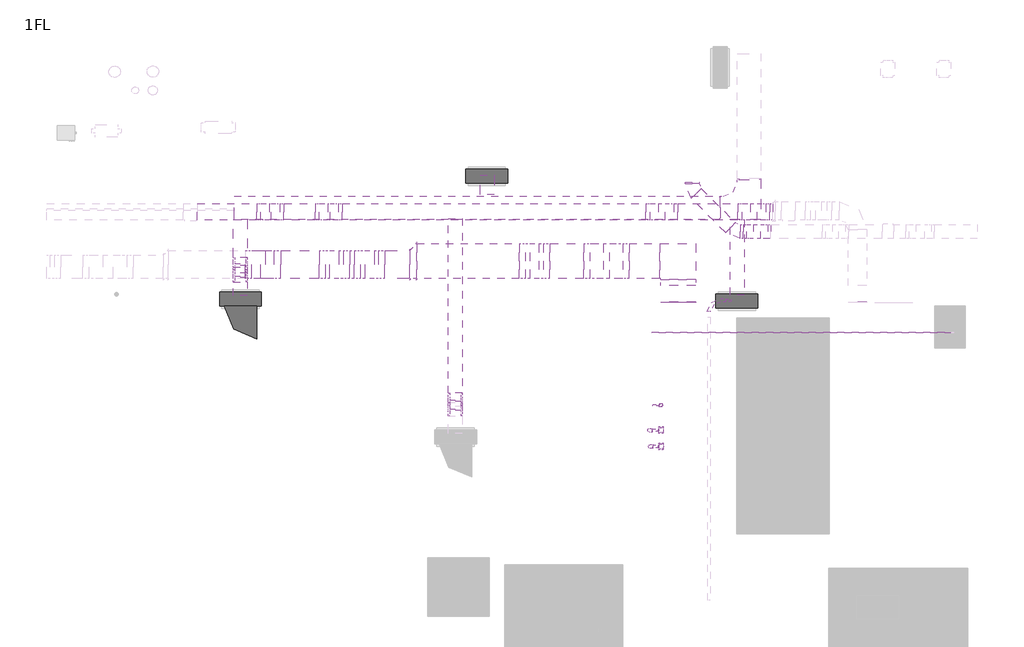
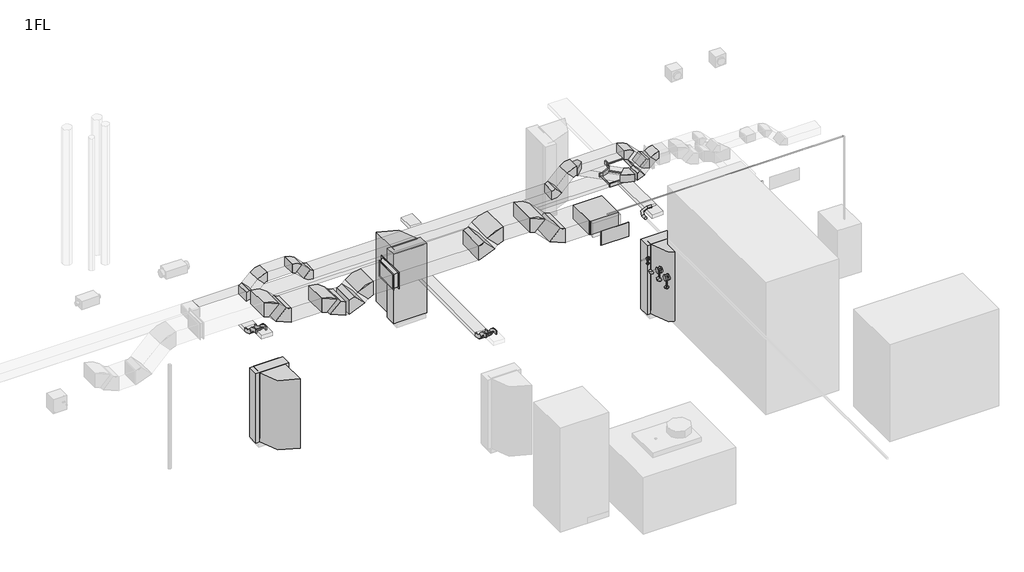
# One storey, part 2 of 3: 27 duct segments, 25 duct fittings, 8 cable carrier segments, 6 cable carrier fittings, 4 pipe segments, 3 electric distribution boards, 3 valves, 2 pipe fittings, 1 unitary equipment element.
"""IFC4 building model written with IfcOpenShell, lengths in millimetres."""

from ifc_helpers import new_model, si_unit, point, frame, frame_2d, origin, place, context, project, spatial, polyline, circle_curve, trimmed, segment, composite_curve, outline, extrude, transform, mapped, element, save
from components import cable_carrier_fitting_edf0bd9d, cable_carrier_fitting_9c4a5b13, cable_carrier_fitting_d686a4da, cable_carrier_fitting_229b7f87, cable_carrier_fitting_3f0ff01a, common_09ffd0da, common_59e5cf79, common_161684ae, common_1_0_w_ddcf5361, common_1_0_w_f1e48291, common_1_0_w_68f2167f, common_1_0_w_5a3e512d, common_1_0_w_45d880c6, common_45_deg_431b9730, electric_distribution_board_7d68dc5e, common_9c93153a, unitary_equipment_9000m3_h_907ab617, valve_cbaba786, valve_7e61feda

model = new_model("IFC4")

# Units and contexts
model_context = context("Model", 3, world=origin())
ifc_project = project(units=[si_unit("LENGTHUNIT", "METRE", prefix="MILLI")], contexts=[model_context])

# Site, building, storey
site = spatial("IfcSite", under=ifc_project)
building = spatial("IfcBuilding", under=site)
storey = spatial("IfcBuildingStorey", under=building, Name="1FL", Elevation=0.0)

# Cable carrier fittings
placement = place(None, origin())
cable_carrier_fitting_shape = cable_carrier_fitting_edf0bd9d(model_context)
element("IfcCableCarrierFitting", 1, ObjectType="Common_はしご垂直内側曲げ : 03 強電_低圧", at=placement, inside=storey, context=model_context, shape_type="MappedRepresentation", body=[
    mapped(cable_carrier_fitting_shape, transform((16604.8202836, 14010.0, 2650.0), x_axis=(0.0, 0.707106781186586, -0.7071067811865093), y_axis=(0.0, 0.7071067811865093, 0.707106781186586), z_axis=(1.0, 0.0, 0.0))),
])
cable_carrier_fitting_2_shape = cable_carrier_fitting_9c4a5b13(model_context)
element("IfcCableCarrierFitting", 2, ObjectType="Common_はしご垂直外側曲げ : 03 強電_低圧", at=placement, inside=storey, context=model_context, shape_type="MappedRepresentation", body=[
    mapped(cable_carrier_fitting_2_shape, transform((16604.8202836, 13760.0, 2900.0), x_axis=(0.0, -0.707106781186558, 0.7071067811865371), y_axis=(0.0, -0.7071067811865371, -0.707106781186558), z_axis=(1.0, 0.0, 0.0))),
])
cable_carrier_fitting_3_shape = cable_carrier_fitting_d686a4da(model_context)
element("IfcCableCarrierFitting", 3, ObjectType="Common_はしご垂直内側曲げ : 03 強電_低圧", at=placement, inside=storey, context=model_context, shape_type="MappedRepresentation", body=[
    mapped(cable_carrier_fitting_3_shape, transform((21219.8202836, 11089.0, 2650.0), x_axis=(0.0, 0.5939062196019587, -0.80453427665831), y_axis=(0.0, 0.80453427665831, 0.5939062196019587), z_axis=(1.0, 0.0, 0.0))),
])
cable_carrier_fitting_4_shape = cable_carrier_fitting_229b7f87(model_context)
element("IfcCableCarrierFitting", 4, ObjectType="Common_はしご垂直外側曲げ : 03 強電_低圧", at=placement, inside=storey, context=model_context, shape_type="MappedRepresentation", body=[
    mapped(cable_carrier_fitting_4_shape, transform((21219.8202836, 10904.4503056, 2900.0), x_axis=(0.0, -0.593906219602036, 0.8045342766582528), y_axis=(0.0, -0.8045342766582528, -0.593906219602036), z_axis=(1.0, 0.0, 0.0))),
])
cable_carrier_fitting_5_shape = cable_carrier_fitting_3f0ff01a(model_context)
element("IfcCableCarrierFitting", 5, ObjectType="Common_L 型接合部、交差梁付き : 03 強電_低圧", at=placement, inside=storey, context=model_context, shape_type="MappedRepresentation", body=[
    mapped(cable_carrier_fitting_5_shape, transform((27519.8202836, 15220.0, 2650.0), x_axis=(1.0, 0.0, 0.0), y_axis=(0.0, 1.0, 0.0), z_axis=(0.0, 0.0, 1.0))),
])
common_shape = common_09ffd0da(model_context)
element("IfcCableCarrierFitting", 6, ObjectType="011_電線管エルボ : Common", at=placement, inside=storey, context=model_context, shape_type="MappedRepresentation", body=[
    mapped(common_shape, transform((26660.0, 13234.4620696, 3060.0), x_axis=(-1.0, 0.0, 0.0), y_axis=(0.0, -1.0, 0.0), z_axis=(0.0, 0.0, 1.0))),
])

# Cable carrier segments
element("IfcCableCarrierSegment", 7, ObjectType="03 強電_低圧", at=placement, inside=storey, context=model_context, shape_type="SweptSolid", body=[
    extrude(outline(polyline([(27111.6364041, 14969.9652764), (27411.6364041, 14969.9652764), (27411.6364041, 13349.9324391), (27111.6364041, 13349.9324391), (27111.6364041, 14969.9652764)])), frame((0.0, 0.0, 2601.132324), z_axis=(0.0, 0.0, 1.0), x_axis=(1.0, 0.0, 0.0)), (0.0, 0.0, 1.0), 100.0),
])
element("IfcCableCarrierSegment", 8, ObjectType="03 強電_低圧", at=placement, inside=storey, context=model_context, shape_type="SweptSolid", body=[
    extrude(outline(polyline([(16754.8202836, 14147.9898987), (16454.8202836, 14147.9898987), (16454.8202836, 14970.0), (16754.8202836, 14970.0), (16754.8202836, 14147.9898987)])), frame((0.0, 0.0, 2600.0), z_axis=(0.0, 0.0, 1.0), x_axis=(1.0, 0.0, 0.0)), (0.0, 0.0, 1.0), 100.0),
])
element("IfcCableCarrierSegment", 9, ObjectType="03 強電_低圧", at=placement, inside=storey, context=model_context, shape_type="SweptSolid", body=[
    extrude(outline(polyline([(0.0, -300.0), (0.0, 0.0), (77.5735931, 0.0), (77.5735931, -300.0), (0.0, -300.0)])), frame((16754.8202836, 13877.0710678, 2712.2182541), z_axis=(0.0, 0.7071067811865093, 0.707106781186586), x_axis=(0.0, -0.707106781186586, 0.7071067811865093)), (0.0, 0.0, 1.0), 100.0),
])
element("IfcCableCarrierSegment", 10, ObjectType="03 強電_低圧", at=placement, inside=storey, context=model_context, shape_type="SweptSolid", body=[
    extrude(outline(polyline([(16454.8202836, 13622.0101013), (16754.8202836, 13622.0101013), (16754.8202836, 13337.9098855), (16454.8202836, 13337.9098855), (16454.8202836, 13622.0101013)])), frame((0.0, 0.0, 2850.0), z_axis=(0.0, 0.0, 1.0), x_axis=(1.0, 0.0, 0.0)), (0.0, 0.0, 1.0), 100.0),
])
element("IfcCableCarrierSegment", 11, ObjectType="03 強電_低圧", at=placement, inside=storey, context=model_context, shape_type="SweptSolid", body=[
    extrude(outline(polyline([(22048.55973, 15500.0), (21748.55973, 15500.0), (21748.55973, 15920.0), (22048.55973, 15920.0), (22048.55973, 15500.0)])), frame((0.0, 0.0, 2850.0), z_axis=(0.0, 0.0, 1.0), x_axis=(1.0, 0.0, 0.0)), (0.0, 0.0, 1.0), 100.0),
])
element("IfcCableCarrierSegment", 12, ObjectType="03 強電_低圧", at=placement, inside=storey, context=model_context, shape_type="SweptSolid", body=[
    extrude(outline(polyline([(21369.8202836, 11239.6658882), (21069.8202836, 11239.6658882), (21069.8202836, 14989.0), (21369.8202836, 14989.0), (21369.8202836, 11239.6658882)])), frame((0.0, 0.0, 2600.0), z_axis=(0.0, 0.0, 1.0), x_axis=(1.0, 0.0, 0.0)), (0.0, 0.0, 1.0), 100.0),
])
element("IfcCableCarrierSegment", 13, ObjectType="03 強電_低圧", at=placement, inside=storey, context=model_context, shape_type="SweptSolid", body=[
    extrude(outline(polyline([(26889.8202836, 15470.0), (26889.8202836, 14970.0), (16469.8202836, 14970.0), (16469.8202836, 15470.0), (26889.8202836, 15470.0)])), frame((0.0, 0.0, 2600.0), z_axis=(0.0, 0.0, 1.0), x_axis=(1.0, 0.0, 0.0)), (0.0, 0.0, 1.0), 100.0),
])
element("IfcCableCarrierSegment", 14, ObjectType="021_ねじなし電線管_E_強電", at=placement, inside=storey, context=model_context, shape_type="SweptSolid", body=[
    extrude(outline(composite_curve([segment(trimmed(circle_curve(frame_2d((13234.4620696, 3060.0)), 25.4), [point((13209.0620696, 3060.0))], [point((13234.4620696, 3085.4))], False, "CARTESIAN"), True, "CONTINUOUS"), segment(trimmed(circle_curve(frame_2d((13234.4620696, 3060.0)), 25.4), [point((13234.4620696, 3085.4))], [point((13259.8620696, 3060.0))], False, "CARTESIAN"), True, "CONTINUOUS"), segment(trimmed(circle_curve(frame_2d((13234.4620696, 3060.0)), 25.4), [point((13259.8620696, 3060.0))], [point((13234.4620696, 3034.6))], False, "CARTESIAN"), True, "CONTINUOUS"), segment(trimmed(circle_curve(frame_2d((13234.4620696, 3060.0)), 25.4), [point((13234.4620696, 3034.6))], [point((13209.0620696, 3060.0))], False, "CARTESIAN"), True, "CONTINUOUS")], self_intersect=False)), frame((27023.7239063, 0.0, 0.0), z_axis=(1.0, 0.0, 0.0), x_axis=(0.0, 1.0, 0.0)), (0.0, 0.0, 1.0), 116.2760938),
])

# Duct fittings
common_2_shape = common_59e5cf79(model_context)
element("IfcDuctFitting", 15, ObjectType="014_角形分割エルボ - 一重ベーン : Common", at=placement, inside=storey, context=model_context, shape_type="MappedRepresentation", body=[
    mapped(common_2_shape, transform((26000.0, 14075.0, 2650.0), x_axis=(0.0, 1.0, 0.0), y_axis=(-1.0, 0.0, 0.0), z_axis=(0.0, 0.0, 1.0))),
])
common_3_shape = common_161684ae(model_context)
element("IfcDuctFitting", 16, ObjectType="071_角型ユニオン : Common", at=placement, inside=storey, context=model_context, shape_type="MappedRepresentation", body=[
    mapped(common_3_shape, transform((26000.0, 13188.0, 2650.0), x_axis=(0.0, -1.0, 0.0), y_axis=(1.0, 0.0, 0.0), z_axis=(0.0, 0.0, 1.0))),
])
common_1_0_w_shape = common_1_0_w_ddcf5361(model_context)
element("IfcDuctFitting", 17, ObjectType="011_角型エルボ - 半径 : Common 1.0 W", at=placement, inside=storey, context=model_context, shape_type="MappedRepresentation", body=[
    mapped(common_1_0_w_shape, transform((24784.3145751, 14075.0, 2650.0), x_axis=(-1.0, 0.0, 0.0), y_axis=(0.0, 0.0, 1.0), z_axis=(0.0, 1.0, 0.0))),
])
element("IfcDuctFitting", 18, ObjectType="011_角型エルボ - 半径 : Common 1.0 W", at=placement, inside=storey, context=model_context, shape_type="MappedRepresentation", body=[
    mapped(common_1_0_w_shape, transform((24134.3145751, 14075.0, 3300.0), x_axis=(-0.7071067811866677, 0.0, 0.7071067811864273), y_axis=(-0.7071067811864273, 0.0, -0.7071067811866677), z_axis=(0.0, -1.0, 0.0))),
])
element("IfcDuctFitting", 19, ObjectType="011_角型エルボ - 半径 : Common 1.0 W", at=placement, inside=storey, context=model_context, shape_type="MappedRepresentation", body=[
    mapped(common_1_0_w_shape, transform((23079.3145751, 14075.0, 3300.0), x_axis=(-1.0, 0.0, 0.0), y_axis=(0.0, 0.0, -1.0), z_axis=(0.0, -1.0, 0.0))),
])
element("IfcDuctFitting", 20, ObjectType="011_角型エルボ - 半径 : Common 1.0 W", at=placement, inside=storey, context=model_context, shape_type="MappedRepresentation", body=[
    mapped(common_1_0_w_shape, transform((22754.3145751, 14075.0, 2975.0), x_axis=(-0.7071067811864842, 0.0, -0.7071067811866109), y_axis=(-0.7071067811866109, 0.0, 0.7071067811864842), z_axis=(0.0, 1.0, 0.0))),
])
common_1_0_w_2_shape = common_1_0_w_f1e48291(model_context)
element("IfcDuctFitting", 21, ObjectType="011_角型エルボ - 半径 : Common 1.0 W", at=placement, inside=storey, context=model_context, shape_type="MappedRepresentation", body=[
    mapped(common_1_0_w_2_shape, transform((18784.3145751, 14000.0, 2650.0), x_axis=(0.7071067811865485, 0.0, -0.7071067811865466), y_axis=(0.7071067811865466, 0.0, 0.7071067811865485), z_axis=(0.0, -1.0, 0.0))),
])
element("IfcDuctFitting", 22, ObjectType="011_角型エルボ - 半径 : Common 1.0 W", at=placement, inside=storey, context=model_context, shape_type="MappedRepresentation", body=[
    mapped(common_1_0_w_2_shape, transform((19215.6854249, 14000.0, 2650.0), x_axis=(1.0, 0.0, 0.0), y_axis=(0.0, 0.0, 1.0), z_axis=(0.0, -1.0, 0.0))),
])
element("IfcDuctFitting", 23, ObjectType="011_角型エルボ - 半径 : Common 1.0 W", at=placement, inside=storey, context=model_context, shape_type="MappedRepresentation", body=[
    mapped(common_1_0_w_2_shape, transform((19540.6854249, 14000.0, 2975.0), x_axis=(0.7071067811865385, 0.0, 0.7071067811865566), y_axis=(0.7071067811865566, 0.0, -0.7071067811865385), z_axis=(0.0, 1.0, 0.0))),
])
element("IfcDuctFitting", 24, ObjectType="011_角型エルボ - 半径 : Common 1.0 W", at=placement, inside=storey, context=model_context, shape_type="MappedRepresentation", body=[
    mapped(common_1_0_w_2_shape, transform((16876.996055, 14000.0, 3400.0), x_axis=(1.0, 0.0, 0.0), y_axis=(0.0, 0.0, -1.0), z_axis=(0.0, 1.0, 0.0))),
])
element("IfcDuctFitting", 25, ObjectType="011_角型エルボ - 半径 : Common 1.0 W", at=placement, inside=storey, context=model_context, shape_type="MappedRepresentation", body=[
    mapped(common_1_0_w_2_shape, transform((17301.996055, 14000.0, 2975.0), x_axis=(0.7071067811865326, 0.0, -0.7071067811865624), y_axis=(0.7071067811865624, 0.0, 0.7071067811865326), z_axis=(0.0, -1.0, 0.0))),
])
element("IfcDuctFitting", 26, ObjectType="011_角型エルボ - 半径 : Common 1.0 W", at=placement, inside=storey, context=model_context, shape_type="MappedRepresentation", body=[
    mapped(common_1_0_w_2_shape, transform((18459.3145751, 14000.0, 2975.0), x_axis=(-0.7071067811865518, 0.0, 0.7071067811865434), y_axis=(-0.7071067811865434, 0.0, -0.7071067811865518), z_axis=(0.0, -1.0, 0.0))),
])
common_1_0_w_3_shape = common_1_0_w_68f2167f(model_context)
element("IfcDuctFitting", 27, ObjectType="011_角型エルボ - 半径 : Common 1.0 W", at=placement, inside=storey, context=model_context, shape_type="MappedRepresentation", body=[
    mapped(common_1_0_w_3_shape, transform((17058.8494642, 15130.0, 2925.0), x_axis=(-0.7071067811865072, 0.0, -0.7071067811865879), y_axis=(-0.7071067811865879, 0.0, 0.7071067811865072), z_axis=(0.0, 1.0, 0.0))),
])
element("IfcDuctFitting", 28, ObjectType="011_角型エルボ - 半径 : Common 1.0 W", at=placement, inside=storey, context=model_context, shape_type="MappedRepresentation", body=[
    mapped(common_1_0_w_3_shape, transform((17433.8494642, 15130.0, 3300.0), x_axis=(0.7071067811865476, 0.0, 0.7071067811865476), y_axis=(0.7071067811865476, 0.0, -0.7071067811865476), z_axis=(0.0, 1.0, 0.0))),
])
element("IfcDuctFitting", 29, ObjectType="011_角型エルボ - 半径 : Common 1.0 W", at=placement, inside=storey, context=model_context, shape_type="MappedRepresentation", body=[
    mapped(common_1_0_w_3_shape, transform((18315.7359313, 15130.0, 3300.0), x_axis=(-0.7071067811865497, 0.0, 0.7071067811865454), y_axis=(-0.7071067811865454, 0.0, -0.7071067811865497), z_axis=(0.0, -1.0, 0.0))),
])
element("IfcDuctFitting", 30, ObjectType="011_角型エルボ - 半径 : Common 1.0 W", at=placement, inside=storey, context=model_context, shape_type="MappedRepresentation", body=[
    mapped(common_1_0_w_3_shape, transform((18690.7359313, 15130.0, 2925.0), x_axis=(0.7071067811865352, 0.0, -0.7071067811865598), y_axis=(0.7071067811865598, 0.0, 0.7071067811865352), z_axis=(0.0, -1.0, 0.0))),
])
element("IfcDuctFitting", 31, ObjectType="011_角型エルボ - 半径 : Common 1.0 W", at=placement, inside=storey, context=model_context, shape_type="MappedRepresentation", body=[
    mapped(common_1_0_w_3_shape, transform((25410.7359313, 15130.0, 2925.0), x_axis=(1.0, 0.0, 0.0), y_axis=(0.0, 0.0, 1.0), z_axis=(0.0, -1.0, 0.0))),
])
element("IfcDuctFitting", 32, ObjectType="011_角型エルボ - 半径 : Common 1.0 W", at=placement, inside=storey, context=model_context, shape_type="MappedRepresentation", body=[
    mapped(common_1_0_w_3_shape, transform((27860.8298555, 15130.0, 2925.0), x_axis=(-1.0, 0.0, 0.0), y_axis=(0.0, 0.0, 1.0), z_axis=(0.0, 1.0, 0.0))),
])
element("IfcDuctFitting", 33, ObjectType="011_角型エルボ - 半径 : Common 1.0 W", at=placement, inside=storey, context=model_context, shape_type="MappedRepresentation", body=[
    mapped(common_1_0_w_3_shape, transform((25885.7359313, 15130.0, 3400.0), x_axis=(0.7071067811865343, 0.0, 0.7071067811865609), y_axis=(0.7071067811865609, 0.0, -0.7071067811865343), z_axis=(0.0, 1.0, 0.0))),
])
element("IfcDuctFitting", 34, ObjectType="011_角型エルボ - 半径 : Common 1.0 W", at=placement, inside=storey, context=model_context, shape_type="MappedRepresentation", body=[
    mapped(common_1_0_w_3_shape, transform((27385.8298555, 15130.0, 3400.0), x_axis=(-0.707106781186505, 0.0, 0.7071067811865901), y_axis=(-0.7071067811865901, 0.0, -0.707106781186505), z_axis=(0.0, -1.0, 0.0))),
])
common_1_0_w_4_shape = common_1_0_w_5a3e512d(model_context)
element("IfcDuctFitting", 35, ObjectType="011_角型エルボ - 半径 : Common 1.0 W", at=placement, inside=storey, context=model_context, shape_type="MappedRepresentation", body=[
    mapped(common_1_0_w_4_shape, transform((27479.8006211, 14705.0, 2975.0), x_axis=(1.0, 0.0, 0.0), y_axis=(0.0, 0.0, 1.0), z_axis=(0.0, -1.0, 0.0))),
])
element("IfcDuctFitting", 36, ObjectType="011_角型エルボ - 半径 : Common 1.0 W", at=placement, inside=storey, context=model_context, shape_type="MappedRepresentation", body=[
    mapped(common_1_0_w_4_shape, transform((27904.8006211, 14705.0, 3400.0), x_axis=(-1.0, 0.0, 0.0), y_axis=(0.0, 0.0, -1.0), z_axis=(0.0, -1.0, 0.0))),
])
common_1_0_w_5_shape = common_1_0_w_45d880c6(model_context)
element("IfcDuctFitting", 37, ObjectType="011_角型エルボ - 半径 : Common 1.0 W", at=placement, inside=storey, context=model_context, shape_type="MappedRepresentation", body=[
    mapped(common_1_0_w_5_shape, transform((27210.56029, 14705.0, 2975.0), x_axis=(0.7071067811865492, -0.7071067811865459, 0.0), y_axis=(0.7071067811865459, 0.7071067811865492, 0.0), z_axis=(0.0, 0.0, 1.0))),
])
element("IfcDuctFitting", 38, ObjectType="011_角型エルボ - 半径 : Common 1.0 W", at=placement, inside=storey, context=model_context, shape_type="MappedRepresentation", body=[
    mapped(common_1_0_w_5_shape, transform((26300.0, 15615.56029, 2975.0), x_axis=(0.0, -1.0, 0.0), y_axis=(1.0, 0.0, 0.0), z_axis=(0.0, 0.0, 1.0))),
])
common_45_deg_shape = common_45_deg_431b9730(model_context)
element("IfcDuctFitting", 39, ObjectType="041_角型置換 - フランジ - 角度 : Common 45 deg", at=placement, inside=storey, context=model_context, shape_type="MappedRepresentation", body=[
    mapped(common_45_deg_shape, transform((20389.2142863, 14075.0, 2975.0), x_axis=(-1.0, 0.0, 0.0), y_axis=(0.0, -1.0, 0.0), z_axis=(0.0, 0.0, 1.0))),
])

# Duct segments
element("IfcDuctSegment", 40, ObjectType="00_角タップ", at=placement, inside=storey, context=model_context, shape_type="SweptSolid", body=[
    extrude(outline(polyline([(24950.0, 13700.0), (24950.0, 14450.0), (25600.0, 14450.0), (25600.0, 13700.0), (24950.0, 13700.0)])), frame((0.0, 0.0, 2450.0), z_axis=(0.0, 0.0, 1.0), x_axis=(1.0, 0.0, 0.0)), (0.0, 0.0, 1.0), 400.0),
])
element("IfcDuctSegment", 41, ObjectType="00_角タップ", at=placement, inside=storey, context=model_context, shape_type="SweptSolid", body=[
    extrude(outline(polyline([(18950.0, 13700.0), (18950.0, 14300.0), (19050.0, 14300.0), (19050.0, 13700.0), (18950.0, 13700.0)])), frame((0.0, 0.0, 2450.0), z_axis=(0.0, 0.0, 1.0), x_axis=(1.0, 0.0, 0.0)), (0.0, 0.0, 1.0), 400.0),
])
element("IfcDuctSegment", 42, ObjectType="00_角タップ", at=placement, inside=storey, context=model_context, shape_type="SweptSolid", body=[
    extrude(outline(polyline([(0.0, -600.0), (0.0, 0.0), (128.2485579, 0.0), (128.2485579, -600.0), (0.0, -600.0)])), frame((18525.7359313, 13700.0, 2625.7359313), z_axis=(0.7071067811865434, 0.0, 0.7071067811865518), x_axis=(-0.7071067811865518, 0.0, 0.7071067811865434)), (0.0, 0.0, 1.0), 400.0),
])
element("IfcDuctSegment", 43, ObjectType="00_角タップ", at=placement, inside=storey, context=model_context, shape_type="SweptSolid", body=[
    extrude(outline(polyline([(0.0, -750.0), (0.0, 0.0), (587.8679656, 0.0), (587.8679656, -750.0), (0.0, -750.0)])), frame((24525.7359313, 13700.0, 2625.7359313), z_axis=(0.7071067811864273, 0.0, 0.7071067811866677), x_axis=(-0.7071067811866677, 0.0, 0.7071067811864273)), (0.0, 0.0, 1.0), 400.0),
])
element("IfcDuctSegment", 44, ObjectType="00_角タップ", at=placement, inside=storey, context=model_context, shape_type="SweptSolid", body=[
    extrude(outline(polyline([(19706.3708499, 13700.0), (19706.3708499, 14300.0), (20239.2142863, 14300.0), (20239.2142863, 13700.0), (19706.3708499, 13700.0)])), frame((0.0, 0.0, 2775.0), z_axis=(0.0, 0.0, 1.0), x_axis=(1.0, 0.0, 0.0)), (0.0, 0.0, 1.0), 400.0),
])
element("IfcDuctSegment", 45, ObjectType="00_角タップ", at=placement, inside=storey, context=model_context, shape_type="SweptSolid", body=[
    extrude(outline(polyline([(199.9999999, 660.5551275), (199.9999999, 60.5551275), (-200.0000001, 60.5551275), (-200.0000001, 660.5551275), (199.9999999, 660.5551275)])), frame((19332.8427125, 13639.4448725, 2767.1572875), z_axis=(0.7071067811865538, 0.0, 0.7071067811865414), x_axis=(0.7071067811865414, 0.0, -0.7071067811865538)), (0.0, 0.0, 1.0), 128.2485579),
])
element("IfcDuctSegment", 46, ObjectType="00_角タップ", at=placement, inside=storey, context=model_context, shape_type="SweptSolid", body=[
    extrude(outline(polyline([(18794.2893219, 14955.0), (18794.2893219, 15305.0), (25307.1825407, 15305.0), (25307.1825407, 14955.0), (18794.2893219, 14955.0)])), frame((0.0, 0.0, 2800.0), z_axis=(0.0, 0.0, 1.0), x_axis=(1.0, 0.0, 0.0)), (0.0, 0.0, 1.0), 250.0),
])
element("IfcDuctSegment", 47, ObjectType="00_角タップ", at=placement, inside=storey, context=model_context, shape_type="SweptSolid", body=[
    extrude(outline(polyline([(0.0, -350.0), (0.0, 0.0), (323.2233046, 0.0), (323.2233046, -350.0), (0.0, -350.0)])), frame((18300.5708883, 15305.0, 3138.3883476), z_axis=(0.7071067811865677, 0.0, 0.7071067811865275), x_axis=(0.7071067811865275, 0.0, -0.7071067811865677)), (0.0, 0.0, 1.0), 250.0),
])
element("IfcDuctSegment", 48, ObjectType="00_角タップ", at=placement, inside=storey, context=model_context, shape_type="SweptSolid", body=[
    extrude(outline(polyline([(124.9999999, -390.0581317), (-125.0000001, -390.0581317), (-125.0000001, -40.0581317), (124.9999999, -40.0581317), (124.9999999, -390.0581317)])), frame((17132.0727689, 15345.0581317, 2998.2233047), z_axis=(0.7071067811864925, 0.0, 0.7071067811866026), x_axis=(0.7071067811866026, 0.0, -0.7071067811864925)), (0.0, 0.0, 1.0), 323.2233047),
])
element("IfcDuctSegment", 49, ObjectType="00_角タップ", at=placement, inside=storey, context=model_context, shape_type="SweptSolid", body=[
    extrude(outline(polyline([(18212.1825407, 15305.0), (18212.1825407, 14955.0), (17537.4028548, 14955.0), (17537.4028548, 15305.0), (18212.1825407, 15305.0)])), frame((0.0, 0.0, 3175.0), z_axis=(0.0, 0.0, 1.0), x_axis=(1.0, 0.0, 0.0)), (0.0, 0.0, 1.0), 250.0),
])
element("IfcDuctSegment", 50, ObjectType="00_角タップ", at=placement, inside=storey, context=model_context, shape_type="SweptSolid", body=[
    extrude(outline(polyline([(25625.0, 13195.5), (26375.0, 13195.5), (26375.0, 13191.0), (25625.0, 13191.0), (25625.0, 13195.5)])), frame((0.0, 0.0, 2450.0), z_axis=(0.0, 0.0, 1.0), x_axis=(1.0, 0.0, 0.0)), (0.0, 0.0, 1.0), 400.0),
])
element("IfcDuctSegment", 51, ObjectType="00_角タップ", at=placement, inside=storey, context=model_context, shape_type="SweptSolid", body=[
    extrude(outline(polyline([(29650.0, 13195.5), (30050.0, 13195.5), (30050.0, 13191.0), (29650.0, 13191.0), (29650.0, 13195.5)])), frame((0.0, 0.0, 2450.0), z_axis=(0.0, 0.0, 1.0), x_axis=(1.0, 0.0, 0.0)), (0.0, 0.0, 1.0), 300.0),
])
element("IfcDuctSegment", 52, ObjectType="00_角タップ", at=placement, inside=storey, context=model_context, shape_type="SweptSolid", body=[
    extrude(outline(polyline([(25625.0, 13675.0), (26375.0, 13675.0), (26375.0, 13545.5), (25625.0, 13545.5), (25625.0, 13675.0)])), frame((0.0, 0.0, 2450.0), z_axis=(0.0, 0.0, 1.0), x_axis=(1.0, 0.0, 0.0)), (0.0, 0.0, 1.0), 400.0),
])
element("IfcDuctSegment", 53, ObjectType="00_角タップ", at=placement, inside=storey, context=model_context, shape_type="SweptSolid", body=[
    extrude(outline(polyline([(23968.6291501, 14450.0), (23968.6291501, 13700.0), (23245.0, 13700.0), (23245.0, 14450.0), (23968.6291501, 14450.0)])), frame((0.0, 0.0, 3100.0), z_axis=(0.0, 0.0, 1.0), x_axis=(1.0, 0.0, 0.0)), (0.0, 0.0, 1.0), 400.0),
])
element("IfcDuctSegment", 54, ObjectType="00_角タップ", at=placement, inside=storey, context=model_context, shape_type="SweptSolid", body=[
    extrude(outline(polyline([(17467.6814799, 13700.0), (17467.6814799, 14300.0), (18293.6291501, 14300.0), (18293.6291501, 13700.0), (17467.6814799, 13700.0)])), frame((0.0, 0.0, 2775.0), z_axis=(0.0, 0.0, 1.0), x_axis=(1.0, 0.0, 0.0)), (0.0, 0.0, 1.0), 400.0),
])
element("IfcDuctSegment", 55, ObjectType="00_角ティー", at=placement, inside=storey, context=model_context, shape_type="SweptSolid", body=[
    extrude(outline(polyline([(16955.2960736, 15305.0), (16955.2960736, 14955.0), (15684.375, 14955.0), (15684.375, 15305.0), (16955.2960736, 15305.0)])), frame((0.0, 0.0, 2800.0), z_axis=(0.0, 0.0, 1.0), x_axis=(1.0, 0.0, 0.0)), (0.0, 0.0, 1.0), 250.0),
])
element("IfcDuctSegment", 56, ObjectType="00_角タップ", at=placement, inside=storey, context=model_context, shape_type="SweptSolid", body=[
    extrude(outline(polyline([(0.0, -600.0), (0.0, 0.0), (269.6699141, 0.0), (269.6699141, -600.0), (0.0, -600.0)])), frame((16852.7319862, 14300.0, 3141.4213562), z_axis=(0.7071067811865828, 0.0, 0.7071067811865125), x_axis=(0.7071067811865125, 0.0, -0.7071067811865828)), (0.0, 0.0, 1.0), 400.0),
])
element("IfcDuctSegment", 57, ObjectType="00_角タップ", at=placement, inside=storey, context=model_context, shape_type="SweptSolid", body=[
    extrude(outline(polyline([(199.9999999, -800.0), (-200.0000001, -800.0), (-200.0000001, -50.0), (199.9999999, -50.0), (199.9999999, -800.0)])), frame((22871.4718626, 14500.0, 3092.1572875), z_axis=(0.7071067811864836, 0.0, 0.7071067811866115), x_axis=(0.7071067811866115, 0.0, -0.7071067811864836)), (0.0, 0.0, 1.0), 128.2485579),
])
element("IfcDuctSegment", 58, ObjectType="00_角タップ", at=placement, inside=storey, context=model_context, shape_type="SweptSolid", body=[
    extrude(outline(polyline([(20389.2142863, 13700.0), (20389.2142863, 14450.0), (22588.6291501, 14450.0), (22588.6291501, 13700.0), (20389.2142863, 13700.0)])), frame((0.0, 0.0, 2775.0), z_axis=(0.0, 0.0, 1.0), x_axis=(1.0, 0.0, 0.0)), (0.0, 0.0, 1.0), 400.0),
])
element("IfcDuctSegment", 59, ObjectType="00_角タップ", at=placement, inside=storey, context=model_context, shape_type="SweptSolid", body=[
    extrude(outline(polyline([(28029.8202836, 15305.0), (28029.8202836, 14955.0), (27964.3832461, 14955.0), (27964.3832461, 15305.0), (28029.8202836, 15305.0)])), frame((0.0, 0.0, 2800.0), z_axis=(0.0, 0.0, 1.0), x_axis=(1.0, 0.0, 0.0)), (0.0, 0.0, 1.0), 250.0),
])
element("IfcDuctSegment", 60, ObjectType="00_角タップ", at=placement, inside=storey, context=model_context, shape_type="SweptSolid", body=[
    extrude(outline(polyline([(124.9999999, 390.0581317), (124.9999999, 40.0581317), (-125.0000001, 40.0581317), (-125.0000001, 390.0581317), (124.9999999, 390.0581317)])), frame((25483.959236, 14914.9418683, 2998.2233047), z_axis=(0.7071067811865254, 0.0, 0.7071067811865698), x_axis=(0.7071067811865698, 0.0, -0.7071067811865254)), (0.0, 0.0, 1.0), 464.6446609),
])
element("IfcDuctSegment", 61, ObjectType="00_角タップ", at=placement, inside=storey, context=model_context, shape_type="SweptSolid", body=[
    extrude(outline(polyline([(0.0, -350.0), (0.0, 0.0), (464.6446609, 0.0), (464.6446609, -350.0), (0.0, -350.0)])), frame((27699.2182031, 14955.0, 2909.8349571), z_axis=(0.7071067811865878, 0.0, 0.7071067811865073), x_axis=(-0.7071067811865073, 0.0, 0.7071067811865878)), (0.0, 0.0, 1.0), 250.0),
])
element("IfcDuctSegment", 62, ObjectType="00_角タップ", at=placement, inside=storey, context=model_context, shape_type="SweptSolid", body=[
    extrude(outline(polyline([(25989.2893219, 14955.0), (25989.2893219, 15305.0), (27282.2764649, 15305.0), (27282.2764649, 14955.0), (25989.2893219, 14955.0)])), frame((0.0, 0.0, 3275.0), z_axis=(0.0, 0.0, 1.0), x_axis=(1.0, 0.0, 0.0)), (0.0, 0.0, 1.0), 250.0),
])
element("IfcDuctSegment", 63, ObjectType="00_角ティー", at=placement, inside=storey, context=model_context, shape_type="SweptSolid", body=[
    extrude(outline(polyline([(26281.8019485, 15421.6263072), (26493.9339828, 15633.7583416), (27228.7583416, 14898.9339828), (27016.6263072, 14686.8019485), (26281.8019485, 15421.6263072)])), frame((0.0, 0.0, 2875.0), z_axis=(0.0, 0.0, 1.0), x_axis=(1.0, 0.0, 0.0)), (0.0, 0.0, 1.0), 200.0),
])
element("IfcDuctSegment", 64, ObjectType="00_角ティー", at=placement, inside=storey, context=model_context, shape_type="SweptSolid", body=[
    extrude(outline(polyline([(27334.8243587, 14555.0), (27334.8243587, 14855.0), (27396.9579086, 14855.0), (27396.9579086, 14555.0), (27334.8243587, 14555.0)])), frame((0.0, 0.0, 2875.0), z_axis=(0.0, 0.0, 1.0), x_axis=(1.0, 0.0, 0.0)), (0.0, 0.0, 1.0), 200.0),
])
element("IfcDuctSegment", 65, ObjectType="00_角ティー", at=placement, inside=storey, context=model_context, shape_type="SweptSolid", body=[
    extrude(outline(polyline([(100.0, -330.2775638), (-100.0, -330.2775638), (-100.0, -30.2775638), (100.0, -30.2775638), (100.0, -330.2775638)])), frame((27538.3792649, 14885.2775638, 3033.5786438), z_axis=(0.7071067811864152, 0.0, 0.7071067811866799), x_axis=(0.7071067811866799, 0.0, -0.7071067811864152)), (0.0, 0.0, 1.0), 435.3553391),
])
element("IfcDuctSegment", 66, ObjectType="00_角ティー", at=placement, inside=storey, context=model_context, shape_type="SweptSolid", body=[
    extrude(outline(polyline([(26150.0, 15768.9820303), (26450.0, 15768.9820303), (26450.0, 15739.8243587), (26150.0, 15739.8243587), (26150.0, 15768.9820303)])), frame((0.0, 0.0, 2875.0), z_axis=(0.0, 0.0, 1.0), x_axis=(1.0, 0.0, 0.0)), (0.0, 0.0, 1.0), 200.0),
])

# Electric distribution boards
electric_distribution_board_shape = electric_distribution_board_7d68dc5e(model_context)
element("IfcElectricDistributionBoard", 67, ObjectType="21000_OA盤 : 右扉", at=placement, inside=storey, context=model_context, shape_type="MappedRepresentation", body=[
    mapped(electric_distribution_board_shape, transform((16608.843656, 13456.501765, 0.0), x_axis=(1.0, 0.0, 0.0), y_axis=(0.0, 1.0, 0.0), z_axis=(0.0, 0.0, 1.0))),
])
element("IfcElectricDistributionBoard", 68, ObjectType="21000_OA盤 : 右扉", at=placement, inside=storey, context=model_context, shape_type="MappedRepresentation", body=[
    mapped(electric_distribution_board_shape, transform((21893.33973, 15695.0, 0.0), x_axis=(-1.0, 0.0, 0.0), y_axis=(0.0, -1.0, 0.0), z_axis=(0.0, 0.0, 1.0))),
])
element("IfcElectricDistributionBoard", 69, ObjectType="21300_制御盤 : 右扉", at=placement, inside=storey, context=model_context, shape_type="MappedRepresentation", body=[
    mapped(electric_distribution_board_shape, transform((27260.0, 13415.0, 0.0), x_axis=(1.0, 0.0, 0.0), y_axis=(0.0, 1.0, 0.0), z_axis=(0.0, 0.0, 1.0))),
])

# Pipe fittings
common_4_shape = common_9c93153a(model_context)
element("IfcPipeFitting", 70, ObjectType="011_エルボ : Common", at=placement, inside=storey, context=model_context, shape_type="MappedRepresentation", body=[
    mapped(common_4_shape, transform((25399.917665, 10093.0325009, 3400.0), x_axis=(0.0, 0.0, -1.0), y_axis=(1.0, 0.0, 0.0), z_axis=(0.0, -1.0, 0.0))),
])
element("IfcPipeFitting", 71, ObjectType="011_エルボ : Common", at=placement, inside=storey, context=model_context, shape_type="MappedRepresentation", body=[
    mapped(common_4_shape, transform((25387.5087141, 10443.0325009, 3400.0), x_axis=(0.0, 0.0, -1.0), y_axis=(1.0, 0.0, 0.0), z_axis=(0.0, -1.0, 0.0))),
])

# Pipe segments
element("IfcPipeSegment", 72, ObjectType="00_供給", at=placement, inside=storey, context=model_context, shape_type="SweptSolid", body=[
    extrude(outline(composite_curve([segment(trimmed(circle_curve(frame_2d((12540.4881997, 3800.0)), 10.85), [point((12551.3381997, 3800.0))], [point((12540.4881997, 3789.15))], False, "CARTESIAN"), True, "CONTINUOUS"), segment(trimmed(circle_curve(frame_2d((12540.4881997, 3800.0)), 10.85), [point((12540.4881997, 3789.15))], [point((12529.6381997, 3800.0))], False, "CARTESIAN"), True, "CONTINUOUS"), segment(trimmed(circle_curve(frame_2d((12540.4881997, 3800.0)), 10.85), [point((12529.6381997, 3800.0))], [point((12540.4881997, 3810.85))], False, "CARTESIAN"), True, "CONTINUOUS"), segment(trimmed(circle_curve(frame_2d((12540.4881997, 3800.0)), 10.85), [point((12540.4881997, 3810.85))], [point((12551.3381997, 3800.0))], False, "CARTESIAN"), True, "CONTINUOUS")], self_intersect=False)), frame((25427.0, 0.0, 0.0), z_axis=(1.0, 0.0, 0.0), x_axis=(0.0, 1.0, 0.0)), (0.0, 0.0, 1.0), 6440.6903852),
])
element("IfcPipeSegment", 73, ObjectType="00_供給", at=placement, inside=storey, context=model_context, shape_type="SweptSolid", body=[
    extrude(outline(composite_curve([segment(trimmed(circle_curve(frame_2d((10093.0325009, 3400.0)), 30.25), [point((10062.7825009, 3400.0))], [point((10093.0325009, 3430.25))], False, "CARTESIAN"), True, "CONTINUOUS"), segment(trimmed(circle_curve(frame_2d((10093.0325009, 3400.0)), 30.25), [point((10093.0325009, 3430.25))], [point((10123.2825009, 3400.0))], False, "CARTESIAN"), True, "CONTINUOUS"), segment(trimmed(circle_curve(frame_2d((10093.0325009, 3400.0)), 30.25), [point((10123.2825009, 3400.0))], [point((10093.0325009, 3369.75))], False, "CARTESIAN"), True, "CONTINUOUS"), segment(trimmed(circle_curve(frame_2d((10093.0325009, 3400.0)), 30.25), [point((10093.0325009, 3369.75))], [point((10062.7825009, 3400.0))], False, "CARTESIAN"), True, "CONTINUOUS")], self_intersect=False)), frame((25457.917665, 0.0, 0.0), z_axis=(1.0, 0.0, 0.0), x_axis=(0.0, 1.0, 0.0)), (0.0, 0.0, 1.0), 122.082335),
])
element("IfcPipeSegment", 74, ObjectType="00_供給", at=placement, inside=storey, context=model_context, shape_type="SweptSolid", body=[
    extrude(outline(composite_curve([segment(trimmed(circle_curve(frame_2d((10443.0325009, 3400.0)), 30.25), [point((10412.7825009, 3400.0))], [point((10443.0325009, 3430.25))], False, "CARTESIAN"), True, "CONTINUOUS"), segment(trimmed(circle_curve(frame_2d((10443.0325009, 3400.0)), 30.25), [point((10443.0325009, 3430.25))], [point((10473.2825009, 3400.0))], False, "CARTESIAN"), True, "CONTINUOUS"), segment(trimmed(circle_curve(frame_2d((10443.0325009, 3400.0)), 30.25), [point((10473.2825009, 3400.0))], [point((10443.0325009, 3369.75))], False, "CARTESIAN"), True, "CONTINUOUS"), segment(trimmed(circle_curve(frame_2d((10443.0325009, 3400.0)), 30.25), [point((10443.0325009, 3369.75))], [point((10412.7825009, 3400.0))], False, "CARTESIAN"), True, "CONTINUOUS")], self_intersect=False)), frame((25445.5087141, 0.0, 0.0), z_axis=(1.0, 0.0, 0.0), x_axis=(0.0, 1.0, 0.0)), (0.0, 0.0, 1.0), 134.4912859),
])
element("IfcPipeSegment", 75, ObjectType="00_供給", at=placement, inside=storey, context=model_context, shape_type="SweptSolid", body=[
    extrude(outline(composite_curve([segment(trimmed(circle_curve(frame_2d((10983.0325009, 3400.0)), 13.6), [point((10996.6325009, 3400.0))], [point((10983.0325009, 3386.4))], False, "CARTESIAN"), True, "CONTINUOUS"), segment(trimmed(circle_curve(frame_2d((10983.0325009, 3400.0)), 13.6), [point((10983.0325009, 3386.4))], [point((10969.4325009, 3400.0))], False, "CARTESIAN"), True, "CONTINUOUS"), segment(trimmed(circle_curve(frame_2d((10983.0325009, 3400.0)), 13.6), [point((10969.4325009, 3400.0))], [point((10983.0325009, 3413.6))], False, "CARTESIAN"), True, "CONTINUOUS"), segment(trimmed(circle_curve(frame_2d((10983.0325009, 3400.0)), 13.6), [point((10983.0325009, 3413.6))], [point((10996.6325009, 3400.0))], False, "CARTESIAN"), True, "CONTINUOUS")], self_intersect=False)), frame((25451.7799665, 0.0, 0.0), z_axis=(1.0, 0.0, 0.0), x_axis=(0.0, 1.0, 0.0)), (0.0, 0.0, 1.0), 145.7200335),
])

# Unitary equipment
unitary_equipment_9000m3_h_shape = unitary_equipment_9000m3_h_907ab617(model_context)
element("IfcUnitaryEquipment", 76, ObjectType="07020_ACC_コンパクト形空調機_全熱交付 : 9000m3/h", at=placement, inside=storey, context=model_context, shape_type="MappedRepresentation", body=[
    mapped(unitary_equipment_9000m3_h_shape, transform((28500.0, 10740.0, 0.0), x_axis=(0.0, -1.0, 0.0), y_axis=(1.0, 0.0, 0.0), z_axis=(0.0, 0.0, 1.0))),
])

# Valves
valve_shape = valve_cbaba786(model_context)
element("IfcValve", 77, ObjectType="C0100_GV_仕切弁 : GV_仕切弁", at=placement, inside=storey, context=model_context, shape_type="MappedRepresentation", body=[
    mapped(valve_shape, transform((25630.0, 10983.0325009, 3400.0), x_axis=(-1.0, 0.0, 0.0), y_axis=(0.0, 1.0, 0.0), z_axis=(0.0, 0.0, -1.0))),
])
valve_2_shape = valve_7e61feda(model_context)
element("IfcValve", 78, ObjectType="C0100_GV_仕切弁 : GV_仕切弁", at=placement, inside=storey, context=model_context, shape_type="MappedRepresentation", body=[
    mapped(valve_2_shape, transform((25630.0, 10093.0325009, 3400.0), x_axis=(1.0, 0.0, 0.0), y_axis=(0.0, -1.0, 0.0), z_axis=(0.0, 0.0, -1.0))),
])
element("IfcValve", 79, ObjectType="C0100_GV_仕切弁 : GV_仕切弁", at=placement, inside=storey, context=model_context, shape_type="MappedRepresentation", body=[
    mapped(valve_2_shape, transform((25630.0, 10443.0325009, 3400.0), x_axis=(1.0, 0.0, 0.0), y_axis=(0.0, -1.0, 0.0), z_axis=(0.0, 0.0, -1.0))),
])

save(model, "model.ifc")
